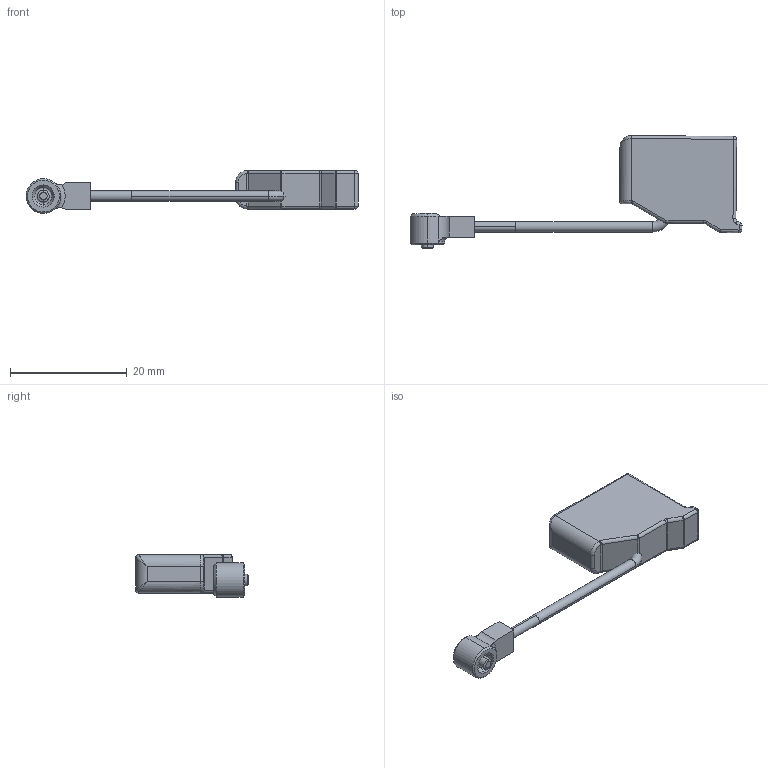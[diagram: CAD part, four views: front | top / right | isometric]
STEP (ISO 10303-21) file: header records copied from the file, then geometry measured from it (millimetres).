
FILE_DESCRIPTION (( 'STEP AP214' ), '1' );
FILE_NAME ('Mini Button w Connector.STEP', '2017-04-18T18:45:46', ( '' ), ( '' ), 'SwSTEP 2.0', 'SolidWorks 2017', '' );
FILE_SCHEMA (( 'AUTOMOTIVE_DESIGN' ));
Length unit declared in the file: inch
Products named in the file (6): m80-8040522 Male Unlatched; Mini Button w Connector; Square Sensor Board housing 19; Partial Overmold Connector 19 for 6mm; Mini Button Single Body Model; Sensor Cable and Clip 6mm
Assembly tree (5 placements, depth 3):
  Mini Button w Connector
    Mini Button Single Body Model
    Partial Overmold Connector 19 for 6mm
      m80-8040522 Male Unlatched
      Square Sensor Board housing 19
      Sensor Cable and Clip 6mm
Bounding box: 56.99 x 19.37 x 7.37 mm (x, y, z)
Volume: 1905.4 mm3; surface area: 2260.2 mm2
Topology: 4 solids, 13 shells, 418 faces, 980 edges, 580 vertices
Faces by surface type: plane 172, cylinder 126, cone 51, torus 43, bspline 16, sphere 10
Entity records: 15835 total; most frequent: CARTESIAN_POINT 2599, DIRECTION 2100, ORIENTED_EDGE 1884, EDGE_CURVE 958, AXIS2_PLACEMENT_3D 815, VERTEX_POINT 580, VECTOR 470, LINE 470
